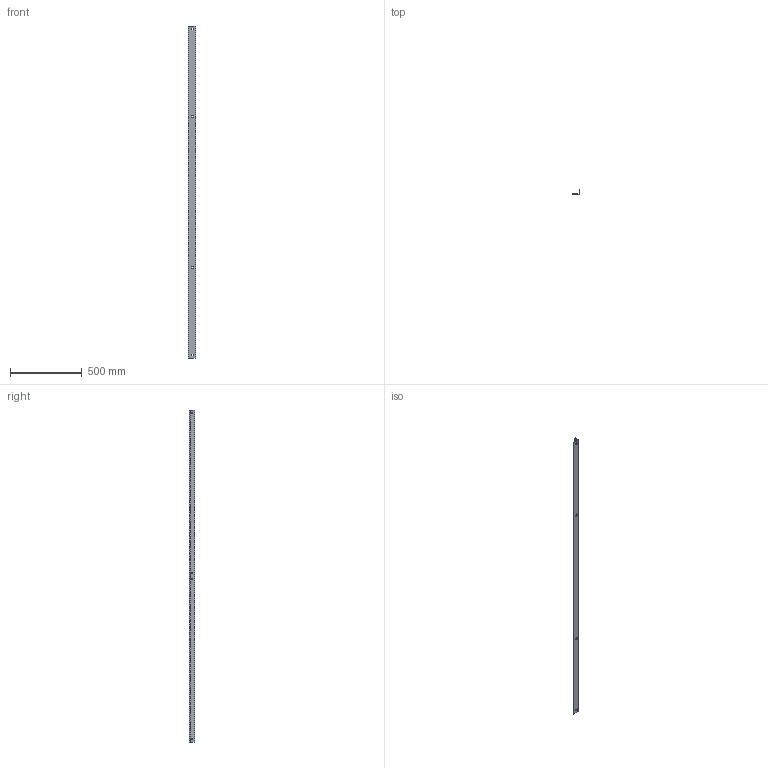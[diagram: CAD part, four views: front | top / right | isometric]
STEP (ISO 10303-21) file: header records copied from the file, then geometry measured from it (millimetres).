
FILE_DESCRIPTION(/* description */ ('Unknown'),/* implementation_level */ '2;1');
FILE_NAME(/* name */ 'H1TRR52U24BK',/* time_stamp */ '2021-03-04T14:15:14-05:00',/* author */ ('Unknown'),/* organization */ ('Unknown'),/* preprocessor_version */ 'ST-DEVELOPER v16.7',/* originating_system */ 'Solid Edge',/* authorisation */ 'Unknown');
FILE_SCHEMA (('AUTOMOTIVE_DESIGN {1 0 10303 214 3 1 1}'));
Length unit declared in the file: millimetre
Products named in the file (1): COM57448-52LB
Bounding box: 50.8 x 35.41 x 2312.16 mm (x, y, z)
Volume: 453680.2 mm3; surface area: 393942.3 mm2
Topology: 1 solids, 1 shells, 309 faces, 1036 edges, 744 vertices
Faces by surface type: cylinder 190, plane 108, bspline 11
Full cylindrical faces by diameter (mm): 4.496 x160
Entity records: 10470 total; most frequent: CARTESIAN_POINT 2229, DIRECTION 1598, ORIENTED_EDGE 1432, EDGE_LOOP 812, FACE_BOUND 812, EDGE_CURVE 716, AXIS2_PLACEMENT_3D 679, VERTEX_POINT 584
